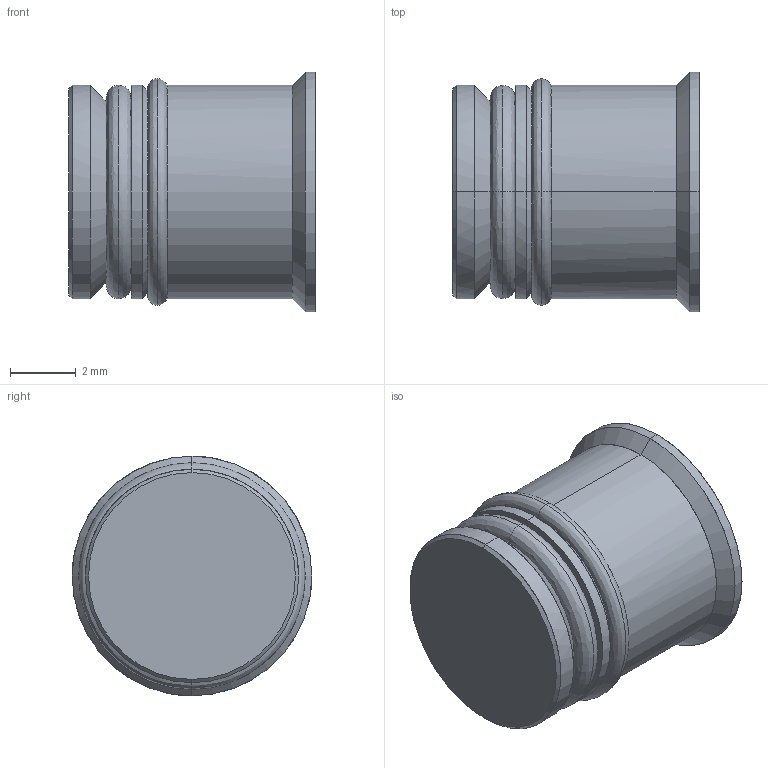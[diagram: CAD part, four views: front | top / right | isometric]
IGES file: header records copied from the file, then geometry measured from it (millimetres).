
Start section: START RECORD GO HERE.
Global section: file name: TR-6.igs; native system: DASSAULT SYSTEMES CATIA V5 R20 - www.3ds.com; preprocessor: CATIA Version 5 Release 20 ; author: Utente; organization: NB04-ASUS; date: 20210223.202230; units: millimetre
Bounding box: 7.5 x 7.3 x 7.3 mm (x, y, z)
Surface area: 367.7 mm2 (no closed solid volume)
Topology: 0 solids, 0 shells, 47 faces, 264 edges, 264 vertices
Faces by surface type: revolution 28, plane 19
